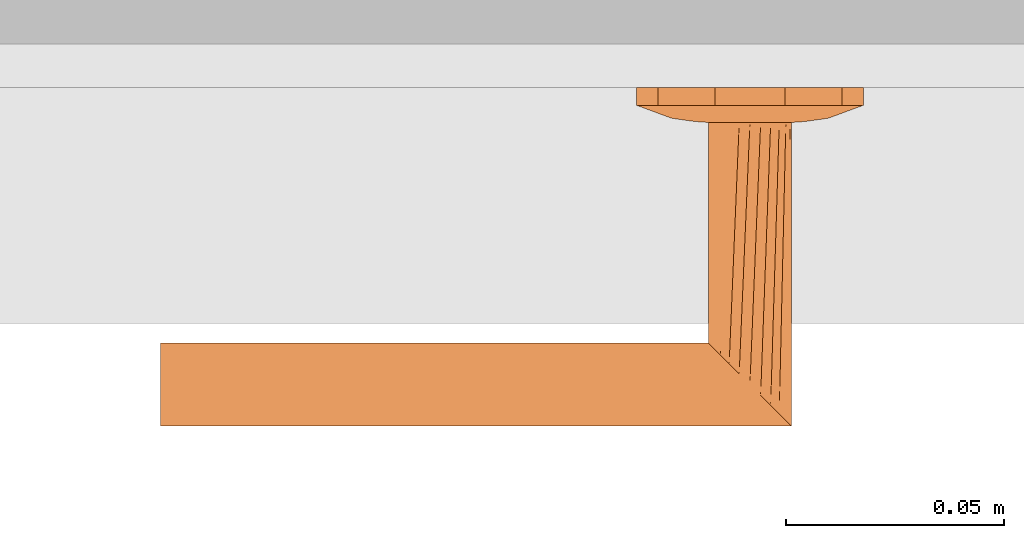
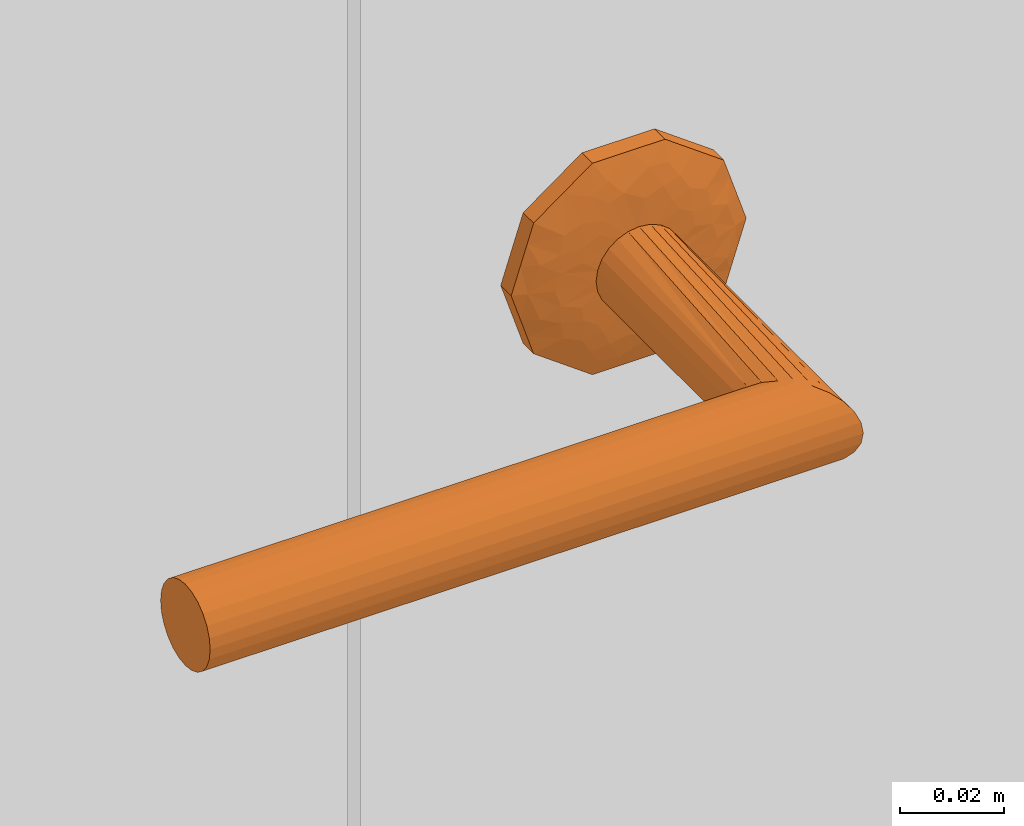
# One storey, part 22 of 55: 1 proxy.
"""IFC2X3 building model written with IfcOpenShell, lengths in millimetres."""

from ifc_helpers import new_model, entity, si_unit, converted_unit, direction, frame, origin, place, context, subcontext, project, spatial, faceted_brep, source, transform, mapped, material, type_object, type_shapes, element, save


model = new_model("IFC2X3")

# Units and contexts
model_context = context("Model", 3, precision=0.01, world=origin(), true_north=direction((6.123233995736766e-17, 1.0)))
plan_context = context("Plan", 3, precision=0.01, world=origin(), true_north=direction((6.123233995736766e-17, 1.0)))
body_context = subcontext(model_context, "Body", "Model", "MODEL_VIEW")
ifc_project = project(units=[si_unit("LENGTHUNIT", "METRE", prefix="MILLI"), converted_unit("PLANEANGLEUNIT", "DEGREE", entity("IfcPlaneAngleMeasure", 0.017453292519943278), si_unit("PLANEANGLEUNIT", "RADIAN"), dimensions=[0, 0, 0, 0, 0, 0, 0]), si_unit("AREAUNIT", "SQUARE_METRE")], contexts=[model_context, plan_context])

# Site, building, storey
site_placement = place(None, origin())
site = spatial("IfcSite", under=ifc_project, at=site_placement, Name="Default", CompositionType="ELEMENT")
building_placement = place(site_placement, origin())
building = spatial("IfcBuilding", under=site, at=building_placement, CompositionType="ELEMENT")
storey_placement = place(building_placement, origin())
storey = spatial("IfcBuildingStorey", under=building, at=storey_placement, Name="1K", CompositionType="ELEMENT", Elevation=0.0)

# Proxy
ifc_material = material(Name="<Unnamed>")
building_element_proxy_type = type_object("IfcBuildingElementProxyType", Name="Door-handle_Lever_ABLOY_INOXI_3-19ss-002_RT:Default", PredefinedType="NOTDEFINED", material=ifc_material)
shared_shape = source(origin(), body_context, "Body", "Brep", [
    faceted_brep([(0.0, 0.0, 0.0), (21.034441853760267, -15.282416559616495, 0.0), (14.534441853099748, -20.00494299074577, 0.0), (8.034441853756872, -24.72746942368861, 0.0), (0.0, -24.72746942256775, 0.0), (23.51722092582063, -7.6412082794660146, 0.0), (26.0, 0.0, 0.0), (-8.034441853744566, -24.727469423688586, 0.0), (-14.534441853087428, -20.00494299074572, 0.0), (-21.03444185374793, -15.282416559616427, 0.0), (-23.517220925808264, -7.641208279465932, 0.0), (-26.0, 0.0, 0.0), (-23.517220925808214, 7.641208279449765, 0.0), (23.517220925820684, 7.641208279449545, 0.0), (21.034441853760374, 15.282416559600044, 0.0), (14.53444185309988, 20.00494299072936, 0.0), (8.034441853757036, 24.72746942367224, 0.0), (-21.034441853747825, 15.282416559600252, 0.0), (-14.53444185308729, 20.004942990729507, 0.0), (-8.0344418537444, 24.72746942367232, 0.0), (0.0, 24.72746942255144, 0.0), (0.0, 0.0, 8.0), (4.7500000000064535, -8.227241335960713, 8.0), (5.937500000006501, -6.170431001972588, 8.0), (7.125000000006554, -4.113620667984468, 8.0), (8.312500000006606, -2.0568103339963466, 8.0), (9.500000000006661, 0.0, 8.0), (8.312500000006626, 2.056810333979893, 8.0), (2.3750000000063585, -8.227241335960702, 8.0), (0.0, -8.227241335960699, 8.0), (-2.3749999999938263, -8.227241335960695, 8.0), (-4.749999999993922, -8.227241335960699, 8.0), (-5.937499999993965, -6.170431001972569, 8.0), (-7.124999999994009, -4.113620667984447, 8.0), (-8.312499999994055, -2.056810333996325, 8.0), (-9.499999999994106, 0.0, 8.0), (7.125000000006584, 4.113620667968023, 8.0), (5.937500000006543, 6.170431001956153, 8.0), (4.750000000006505, 8.227241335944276, 8.0), (2.3750000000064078, 8.22724133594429, 8.0), (-8.31249999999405, 2.0568103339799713, 8.0), (-7.12499999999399, 4.113620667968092, 8.0), (-5.9374999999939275, 6.170431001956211, 8.0), (-4.74999999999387, 8.227241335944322, 8.0), (0.0, 8.227241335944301, 8.0), (-2.374999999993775, 8.227241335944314, 8.0), (-22.488765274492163, -10.806469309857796, 4.030771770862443), (-16.663919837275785, -7.932665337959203, 6.877259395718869), (-20.643071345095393, -6.292822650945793, 5.929480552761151), (-12.50457926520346, -5.179566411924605, 7.774932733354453), (-16.764060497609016, -3.820257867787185, 7.1747985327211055), (-9.071726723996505, -10.311606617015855, 7.7520782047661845), (-11.963426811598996, -8.625290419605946, 7.618343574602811), (-11.979136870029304, -13.678312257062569, 6.945778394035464), (5.7585542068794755, -20.96753300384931, 5.871476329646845), (0.0, -24.72746942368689, 4.030771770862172), (8.03444185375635, -24.727469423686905, 4.030771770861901), (16.66391982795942, -7.932665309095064, 6.877259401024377), (22.488765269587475, -10.806469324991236, 4.03077177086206), (20.64307133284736, -6.29282258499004, 5.929480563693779), (14.534441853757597, -20.004942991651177, 4.030771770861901), (9.499431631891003, -18.64368355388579, 6.154325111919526), (-15.783149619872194, -11.991003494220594, 6.50080018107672), (-21.034441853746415, -15.282416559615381, 4.030771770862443), (-14.53444185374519, -20.00494299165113, 4.030771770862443), (-23.012042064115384, 0.0, 5.135401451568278), (-23.943088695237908, -6.330522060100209, 4.030771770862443), (11.96342678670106, -8.62529049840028, 7.618343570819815), (12.504579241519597, -5.179566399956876, 7.774932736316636), (16.764060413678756, -3.8202578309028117, 7.17479855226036), (15.783149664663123, -11.991003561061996, 6.50080015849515), (17.985351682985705, 0.0, 6.993737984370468), (23.012042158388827, 0.0, 5.135401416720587), (8.661516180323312, -10.478936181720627, 7.768126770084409), (-8.03444185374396, -24.727469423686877, 4.030771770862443), (-3.3573143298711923, -21.197247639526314, 5.971427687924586), (-9.941915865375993, -17.061976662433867, 6.522757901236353), (-5.973257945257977, -16.430139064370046, 7.110979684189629), (-7.711266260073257, -12.760344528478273, 7.594456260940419), (11.979136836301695, -13.678312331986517, 6.945778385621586), (7.511307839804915, -13.358932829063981, 7.529187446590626), (5.953298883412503, -16.50608604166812, 7.096344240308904), (-1.5654593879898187, -15.307443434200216, 7.519134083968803), (-7.784980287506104, -20.476295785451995, 5.812837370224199), (2.8135289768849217, -17.76392260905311, 6.993737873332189), (-17.98535168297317, 0.0, 6.993737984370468), (-26.0, 0.0, 4.030771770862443), (-23.51722092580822, -7.641208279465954, 4.030771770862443), (23.943088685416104, -6.33052209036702, 4.030771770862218), (24.308823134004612, -5.204907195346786, 4.030771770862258), (26.0, 0.0, 4.030771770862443), (21.03444185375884, -15.282416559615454, 4.030771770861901), (22.617646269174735, -10.40981439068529, 4.030771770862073), (22.488765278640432, 10.806469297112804, 4.030771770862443), (16.66391984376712, 7.932665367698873, 6.877259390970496), (20.643071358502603, 6.292822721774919, 5.929480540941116), (12.504579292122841, 5.179566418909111, 7.774932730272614), (16.764060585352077, 3.8202579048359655, 7.174798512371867), (9.07172672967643, 10.31160659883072, 7.752078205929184), (11.963426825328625, 8.62529034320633, 7.618343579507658), (11.979136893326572, 13.67831220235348, 6.9457784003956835), (-5.758554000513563, 20.96753314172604, 5.8714763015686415), (0.0, 24.72746942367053, 4.030771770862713), (-8.03444185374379, 24.72746942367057, 4.030771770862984), (-16.663919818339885, 7.932665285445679, 6.877259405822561), (-22.48876526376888, 10.806469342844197, 4.030771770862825), (-20.643071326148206, 6.2928225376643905, 5.929480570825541), (-14.534441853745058, 20.004942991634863, 4.030771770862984), (-9.499431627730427, 18.643683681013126, 6.154325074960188), (15.783149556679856, 11.991003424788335, 6.5008002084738), (21.03444185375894, 15.282416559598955, 4.030771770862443), (14.534441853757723, 20.004942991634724, 4.030771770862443), (23.943088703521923, 6.330522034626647, 4.030771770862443), (-11.96342675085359, 8.625290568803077, 7.618343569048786), (-12.504579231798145, 5.179566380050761, 7.77493273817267), (-16.764060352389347, 3.820257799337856, 7.174798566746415), (-15.78314967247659, 11.991003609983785, 6.500800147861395), (-8.661516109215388, 10.478936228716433, 7.768126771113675), (8.034441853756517, 24.727469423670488, 4.030771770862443), (3.3573144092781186, 21.197247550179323, 5.971427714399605), (9.941915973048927, 17.061976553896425, 6.522757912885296), (5.9732581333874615, 16.430139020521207, 7.110979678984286), (7.711266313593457, 12.760344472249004, 7.5944562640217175), (-11.979136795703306, 13.678312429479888, 6.945778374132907), (-7.511307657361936, 13.358932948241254, 7.5291874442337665), (-5.9532988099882, 16.50608628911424, 7.096344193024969), (1.5654596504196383, 15.3074431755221, 7.519134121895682), (7.784980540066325, 20.476295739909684, 5.812837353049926), (-2.81352881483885, 17.76392263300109, 6.993737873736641), (23.51722092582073, 7.6412082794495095, 4.030771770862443), (-23.94308867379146, 6.330522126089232, 4.030771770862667), (-24.308823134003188, 5.20490719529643, 4.030771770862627), (-21.034441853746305, 15.282416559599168, 4.030771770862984), (-22.617646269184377, 10.409814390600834, 4.0307717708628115)], [[[0, 1, 2]], [[0, 2, 3]], [[0, 3, 4]], [[0, 5, 1]], [[0, 6, 5]], [[0, 4, 7]], [[0, 7, 8]], [[0, 8, 9]], [[0, 9, 10]], [[0, 10, 11]], [[0, 11, 12]], [[0, 13, 6]], [[0, 14, 13]], [[0, 15, 14]], [[0, 16, 15]], [[0, 12, 17]], [[0, 17, 18]], [[0, 18, 19]], [[0, 19, 20]], [[0, 20, 16]], [[21, 22, 23]], [[21, 23, 24]], [[21, 24, 25]], [[21, 25, 26]], [[21, 26, 27]], [[21, 28, 22]], [[21, 29, 28]], [[21, 30, 29]], [[21, 31, 30]], [[21, 32, 31]], [[21, 33, 32]], [[21, 34, 33]], [[21, 35, 34]], [[21, 27, 36]], [[21, 36, 37]], [[21, 37, 38]], [[21, 38, 39]], [[21, 40, 35]], [[21, 41, 40]], [[21, 42, 41]], [[21, 43, 42]], [[21, 39, 44]], [[21, 44, 45]], [[21, 45, 43]], [[46, 47, 48]], [[47, 49, 50]], [[49, 33, 34]], [[51, 52, 53]], [[49, 52, 33]], [[48, 47, 50]], [[54, 55, 56]], [[57, 58, 59]], [[56, 60, 61]], [[62, 63, 64]], [[65, 66, 48]], [[67, 57, 68]], [[68, 69, 25]], [[57, 67, 70]], [[69, 26, 25]], [[62, 53, 52]], [[71, 69, 72]], [[67, 23, 73]], [[74, 55, 75]], [[76, 77, 78]], [[79, 60, 70]], [[69, 59, 72]], [[80, 81, 61]], [[77, 30, 78]], [[82, 30, 77]], [[28, 80, 22]], [[77, 83, 75]], [[75, 82, 77]], [[55, 84, 75]], [[85, 50, 35]], [[24, 68, 25]], [[82, 84, 29]], [[84, 82, 75]], [[31, 78, 30]], [[82, 29, 30]], [[34, 35, 50]], [[52, 49, 47]], [[62, 52, 47]], [[34, 50, 49]], [[53, 78, 51]], [[32, 33, 52]], [[85, 65, 50]], [[66, 65, 86]], [[67, 68, 24]], [[77, 76, 83]], [[65, 48, 50]], [[63, 62, 46]], [[48, 66, 87, 46]], [[62, 47, 46]], [[69, 68, 57]], [[80, 73, 22]], [[70, 67, 79]], [[67, 24, 23]], [[72, 88, 89, 90]], [[69, 71, 26]], [[59, 69, 57]], [[61, 60, 79]], [[62, 64, 53]], [[91, 58, 70]], [[72, 59, 88]], [[57, 70, 58]], [[59, 58, 92]], [[80, 61, 79]], [[91, 70, 60]], [[61, 81, 54]], [[73, 80, 79]], [[28, 84, 81]], [[67, 73, 79]], [[29, 84, 28]], [[22, 73, 23]], [[51, 31, 32]], [[76, 78, 53]], [[53, 64, 76]], [[83, 64, 74]], [[64, 83, 76]], [[75, 83, 74]], [[31, 51, 78]], [[52, 51, 32]], [[28, 81, 80]], [[54, 81, 84]], [[55, 54, 84]], [[61, 54, 56]], [[93, 94, 95]], [[94, 96, 97]], [[96, 36, 27]], [[98, 99, 100]], [[96, 99, 36]], [[95, 94, 97]], [[101, 102, 103]], [[104, 105, 106]], [[103, 107, 108]], [[109, 110, 111]], [[72, 112, 95]], [[113, 104, 114]], [[114, 115, 40]], [[104, 113, 116]], [[115, 35, 40]], [[109, 100, 99]], [[85, 115, 65]], [[113, 42, 117]], [[118, 102, 119]], [[120, 121, 122]], [[123, 107, 116]], [[115, 106, 65]], [[124, 125, 108]], [[121, 39, 122]], [[126, 39, 121]], [[45, 124, 43]], [[121, 127, 119]], [[119, 126, 121]], [[102, 128, 119]], [[71, 97, 26]], [[41, 114, 40]], [[126, 128, 44]], [[128, 126, 119]], [[38, 122, 39]], [[126, 44, 39]], [[27, 26, 97]], [[99, 96, 94]], [[109, 99, 94]], [[27, 97, 96]], [[100, 122, 98]], [[37, 36, 99]], [[71, 72, 97]], [[112, 72, 90]], [[113, 114, 41]], [[121, 120, 127]], [[72, 95, 97]], [[110, 109, 93]], [[95, 112, 129, 93]], [[109, 94, 93]], [[115, 114, 104]], [[124, 117, 43]], [[116, 113, 123]], [[113, 41, 42]], [[65, 130, 131, 86]], [[115, 85, 35]], [[106, 115, 104]], [[108, 107, 123]], [[109, 111, 100]], [[132, 105, 116]], [[65, 106, 130]], [[104, 116, 105]], [[106, 105, 133]], [[124, 108, 123]], [[132, 116, 107]], [[108, 125, 101]], [[117, 124, 123]], [[45, 128, 125]], [[113, 117, 123]], [[44, 128, 45]], [[43, 117, 42]], [[98, 38, 37]], [[120, 122, 100]], [[100, 111, 120]], [[127, 111, 118]], [[111, 127, 120]], [[119, 127, 118]], [[38, 98, 122]], [[99, 98, 37]], [[45, 125, 124]], [[101, 125, 128]], [[102, 101, 128]], [[108, 101, 103]], [[7, 74, 64, 63, 9, 8]], [[10, 9, 63, 46, 87, 66, 86, 11]], [[6, 90, 89, 88, 92, 1, 5]], [[1, 58, 91]], [[74, 7, 4, 3, 56, 55]], [[60, 56, 3, 2, 1, 91]], [[1, 92, 58]], [[14, 110, 93, 129, 112, 90, 6, 13]], [[111, 110, 14, 15, 16, 118]], [[11, 86, 131, 130, 133, 17, 12]], [[17, 105, 132]], [[118, 16, 20, 19, 103, 102]], [[107, 103, 19, 18, 17, 132]], [[17, 133, 105]], [[59, 92, 88]], [[106, 133, 130]]]),
    faceted_brep([(4.7499999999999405, -8.22724133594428, 8.0), (2.4587809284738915, -9.176295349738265, 8.0), (0.0, -9.499999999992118, 8.0), (-2.4587809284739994, -9.176295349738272, 8.0), (-4.7500000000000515, -8.227241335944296, 8.0), (-6.717514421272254, -6.717514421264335, 8.0), (-8.227241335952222, -4.74999999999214, 8.0), (-9.176295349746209, -2.4587809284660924, 8.0), (-9.500000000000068, 0.0, 8.0), (-9.176295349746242, 2.458780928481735, 8.0), (-8.227241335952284, 4.750000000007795, 8.0), (-6.717514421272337, 6.717514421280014, 8.0), (-4.750000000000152, 8.227241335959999, 8.0), (-2.4587809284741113, 9.176295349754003, 8.0), (0.0, 9.500000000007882, 8.0), (2.4587809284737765, 9.176295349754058, 8.0), (4.7499999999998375, 8.227241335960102, 8.0), (6.717514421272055, 6.717514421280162, 8.0), (8.22724133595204, 4.75000000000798, 8.0), (9.17629534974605, 2.458780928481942, 8.0), (9.499999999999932, 0.0, 8.0), (9.17629534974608, -2.458780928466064, 8.0), (8.227241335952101, -4.749999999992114, 8.0), (6.717514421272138, -6.7175144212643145, 8.0), (-8.227241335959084, 4.7499999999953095, 59.772758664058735), (-6.717514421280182, 6.7175144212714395, 61.282485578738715), (-9.176295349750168, 2.458780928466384, 58.82370465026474), (-4.750000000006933, 8.227241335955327, 63.25000000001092), (-2.4587809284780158, 9.176295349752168, 65.54121907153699), (-9.500000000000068, 0.0, 58.50000000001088), (0.0, 9.50000000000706, 68.0), (4.750000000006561, 8.227241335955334, 72.75000000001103), (2.4587809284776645, 9.17629534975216, 70.45878092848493), (6.717514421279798, 6.7175144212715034, 74.71751442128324), (8.22724133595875, 4.749999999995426, 76.22724133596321), (9.17629534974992, 2.458780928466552, 77.17629534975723), (9.499999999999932, 0.0, 77.50000000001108), (9.176295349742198, -2.4587809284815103, 77.1762953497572), (8.227241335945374, -4.750000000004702, 76.22724133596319), (6.7175144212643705, -6.717514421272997, 74.7175144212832), (4.749999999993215, -8.227241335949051, 72.75000000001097), (2.4587809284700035, -9.17629534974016, 70.45878092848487), (0.0, -9.49999999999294, 68.0), (-2.4587809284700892, -9.176295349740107, 65.54121907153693), (-4.749999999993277, -8.227241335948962, 63.250000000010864), (-6.717514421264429, -6.717514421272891, 61.282485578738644), (-9.176295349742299, -2.458780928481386, 58.8237046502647), (-8.227241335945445, -4.750000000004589, 59.77275866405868), (-135.0, -9.176295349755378, 70.4587809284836), (-135.0, -8.227241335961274, 72.75000000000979), (-135.0, -6.717514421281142, 74.71751442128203), (-135.0, -4.750000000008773, 76.22724133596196), (-135.0, -2.4587809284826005, 77.17629534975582), (-135.0, 0.0, 77.5000000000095), (-135.0, 2.4587809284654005, 77.17629534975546), (-135.0, 4.749999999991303, 76.22724133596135), (-135.0, 6.717514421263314, 74.71751442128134), (-135.0, 8.227241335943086, 72.75000000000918), (-135.0, 9.17629534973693, 70.45878092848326), (-135.0, 9.499999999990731, 68.0), (-135.0, 9.17629534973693, 65.54121907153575), (-135.0, 8.227241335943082, 63.250000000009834), (-135.0, 6.717514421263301, 61.28248557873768), (-135.0, 4.749999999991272, 59.772758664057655), (-135.0, 2.458780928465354, 58.823704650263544), (-135.0, 0.0, 58.50000000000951), (-135.0, -2.458780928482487, 58.82370465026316), (-135.0, -4.750000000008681, 59.772758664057), (-135.0, -6.7175144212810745, 61.28248557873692), (-135.0, -8.227241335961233, 63.25000000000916), (-135.0, -9.176295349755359, 65.54121907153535), (-135.0, -9.500000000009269, 68.0)], [[[0, 1, 2, 3, 4, 5, 6, 7, 8, 9, 10, 11, 12, 13, 14, 15, 16, 17, 18, 19, 20, 21, 22, 23]], [[24, 25, 11, 10]], [[26, 24, 10, 9]], [[14, 27, 28]], [[13, 27, 14]], [[25, 27, 13]], [[29, 26, 9, 8]], [[12, 11, 25]], [[25, 13, 12]], [[28, 30, 15]], [[31, 17, 32]], [[33, 18, 31]], [[19, 34, 35]], [[33, 34, 19]], [[20, 19, 35, 36]], [[16, 15, 30]], [[14, 28, 15]], [[19, 18, 33]], [[17, 31, 18]], [[17, 16, 32]], [[30, 32, 16]], [[20, 36, 37, 21]], [[38, 21, 37]], [[22, 39, 40]], [[38, 39, 21]], [[23, 40, 41]], [[39, 22, 21]], [[1, 42, 43]], [[42, 1, 0]], [[23, 41, 0]], [[23, 22, 40]], [[41, 42, 0]], [[44, 45, 3]], [[43, 44, 2]], [[46, 29, 8, 7]], [[47, 46, 7, 6]], [[45, 47, 6, 5]], [[45, 4, 3]], [[3, 2, 44]], [[5, 4, 45]], [[43, 2, 1]], [[48, 49, 50, 51, 52, 53, 54, 55, 56, 57, 58, 59, 60, 61, 62, 63, 64, 65, 66, 67, 68, 69, 70, 71]], [[64, 63, 24, 26]], [[65, 64, 26, 29]], [[61, 60, 28, 27]], [[62, 61, 27, 25]], [[63, 62, 25, 24]], [[59, 30, 28, 60]], [[57, 56, 33, 31]], [[58, 57, 31, 32]], [[54, 53, 36, 35]], [[55, 54, 35, 34]], [[56, 55, 34, 33]], [[32, 30, 59, 58]], [[52, 51, 38, 37]], [[53, 52, 37, 36]], [[49, 48, 41, 40]], [[50, 49, 40, 39]], [[51, 50, 39, 38]], [[42, 41, 48, 71]], [[69, 68, 45, 44]], [[70, 69, 44, 43]], [[66, 65, 29, 46]], [[67, 66, 46, 47]], [[68, 67, 47, 45]], [[42, 71, 70, 43]]]),
])
type_shapes(building_element_proxy_type, [shared_shape])
proxy_placement = place(storey_placement, frame((6730.0, 1588.0, 1000.0), z_axis=(0.0, -1.0, 0.0), x_axis=(1.0, 0.0, 0.0)))
element("IfcBuildingElementProxy", 1, at=proxy_placement, inside=storey, type_object=building_element_proxy_type, material=ifc_material, Name="Door-handle_Lever_ABLOY_INOXI_3-19ss-002_RT:Default", ObjectType="Door-handle_Lever_ABLOY_INOXI_3-19ss-002_RT:Default", context=body_context, shape_type="MappedRepresentation", body=[
    mapped(shared_shape, transform((0.0, 0.0, 0.0), scale=1.0)),
])

save(model, "model.ifc")
